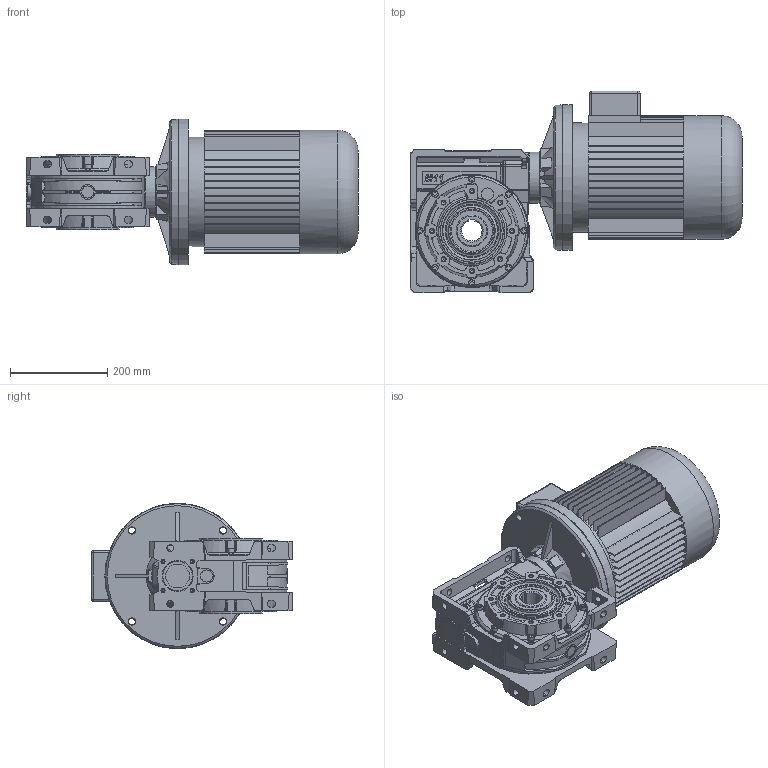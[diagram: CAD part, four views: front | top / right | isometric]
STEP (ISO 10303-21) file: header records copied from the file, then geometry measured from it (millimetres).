
FILE_DESCRIPTION( ( 'Unknown' ), '1' );
FILE_NAME( 'E:/services/configuratordownloads/customers/HYDROMEC/VQM/download/C07D9E10B0FBCCC76162F4238AE24DFB/STEP/C07D9E10B0FBCCC76162F4238AE24DFB.3d.stp', 'Unknown', ( 'Unknown' ), ( 'Unknown' ), 'PSStep 10.1', 'Unknown', ' ' );
FILE_SCHEMA( ( 'AUTOMOTIVE_DESIGN { 1 0 10303 214 1 1 1 1 }' ) );
Length unit declared in the file: millimetre
Products named in the file (1): M118800
Bounding box: 684.5 x 415.5 x 300 mm (x, y, z)
Volume: 25191757.3 mm3; surface area: 1451109.6 mm2
Topology: 1 solids, 33 shells, 1992 faces, 5193 edges, 3359 vertices
Faces by surface type: plane 1172, cylinder 324, cone 248, bspline 170, torus 48, extrusion 22, sphere 8
Full cylindrical faces by diameter (mm): 4.917 x6, 6.647 x8, 8 x14, 8.376 x32, 9 x14, 9.5 x6, 13 x14, 14 x14, 25 x4, 38 x1, 40 x1, 41 x1, 49 x1, 55 x1, 61 x1, 62 x1, 63 x1, 65 x3, 75 x2, 85 x2, 105 x1, 130 x2, 220 x1, 225 x1, 230 x2, 255 x1, 300 x1
Entity records: 90180 total; most frequent: CARTESIAN_POINT 28015, ORIENTED_EDGE 9532, DIRECTION 9161, EDGE_CURVE 4766, AXIS2_PLACEMENT_3D 3281, VERTEX_POINT 3240, VECTOR 2599, LINE 2577
